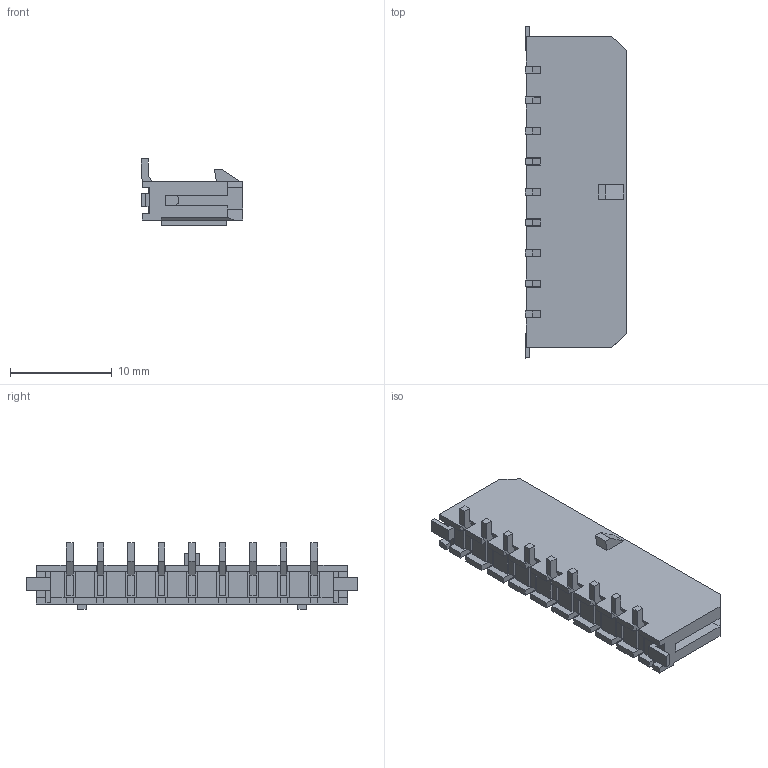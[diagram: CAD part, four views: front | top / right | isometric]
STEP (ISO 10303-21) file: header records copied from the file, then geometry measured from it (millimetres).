
FILE_DESCRIPTION(/* description */ (''),/* implementation_level */ '2;1');
FILE_NAME(/* name */ 'E:\工作文件\现出货3D文件\05德利\DL30004(MX3.0单排)\HC-MX3.0-NALT-05(立贴-HCTL)\HC-MX3.0-9ALT-05(立贴-HCTL).stp',/* time_stamp */ '2024-03-06T11:00:13+08:00',/* author */ ('admin'),/* organization */ (''),/* preprocessor_version */ 'ST-DEVELOPER v18.1',/* originating_system */ 'Autodesk Inventor 2021',/* authorisation */ '');
FILE_SCHEMA (('AUTOMOTIVE_DESIGN { 1 0 10303 214 3 1 1 }'));
Length unit declared in the file: millimetre
Products named in the file (1): HC-MX3.0-4ALT-05(立贴-HCTL)
Bounding box: 10 x 32.6 x 6.5 mm (x, y, z)
Volume: 671.2 mm3; surface area: 1949.3 mm2
Topology: 1 solids, 3 shells, 436 faces, 1186 edges, 786 vertices
Faces by surface type: plane 430, cylinder 6
Entity records: 13727 total; most frequent: CARTESIAN_POINT 2409, ORIENTED_EDGE 2372, DIRECTION 2072, EDGE_CURVE 1186, LINE 1174, VECTOR 1174, VERTEX_POINT 786, EDGE_LOOP 466
